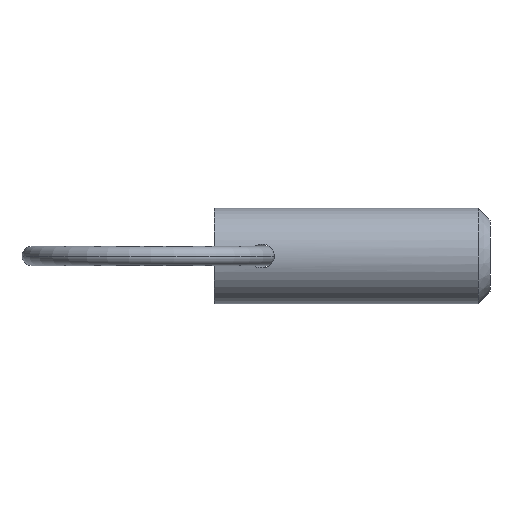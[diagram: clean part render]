
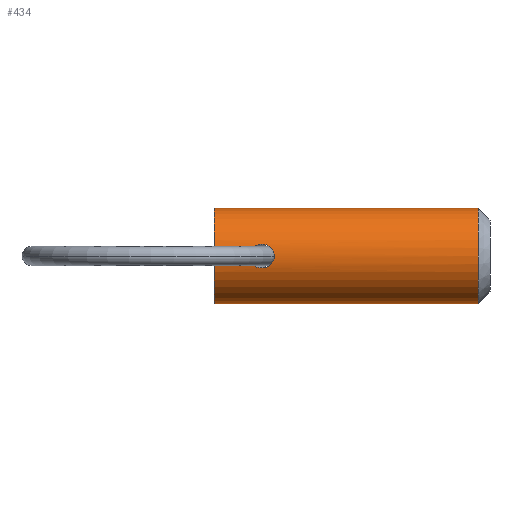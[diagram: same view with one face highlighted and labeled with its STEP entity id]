
A CAD part, front view. The second image highlights one B-rep face of the part: STEP entity #434.
In plain terms, the highlighted cylindrical face has radius 6.35 mm (diameter 12.7 mm), a partial arc.
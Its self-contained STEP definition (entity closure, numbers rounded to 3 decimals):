
#16 = CARTESIAN_POINT ( 'NONE',  ( 7.833, -6.328, -0.536 ) ) ;
#19 = EDGE_LOOP ( 'NONE', ( #522, #791, #181, #562 ) ) ;
#20 = CARTESIAN_POINT ( 'NONE',  ( 34.913, 0., 6.35 ) ) ;
#27 = VECTOR ( 'NONE', #546, 1000. ) ;
#31 = VERTEX_POINT ( 'NONE', #828 ) ;
#37 = CARTESIAN_POINT ( 'NONE',  ( 5.104, -6.237, -1.196 ) ) ;
#47 = CARTESIAN_POINT ( 'NONE',  ( 6.963, -6.18, -1.459 ) ) ;
#76 = B_SPLINE_CURVE_WITH_KNOTS ( 'NONE', 3,
 ( #658, #868, #347, #342, #273, #205, #539, #330, #601, #191, #471, #77, #287, #864, #480, #725, #394, #309, #767, #641, #706, #138, #419, #431 ),
 .UNSPECIFIED., .F., .F.,
 ( 4, 2, 2, 2, 2, 2, 2, 2, 2, 2, 2, 4 ),
 ( 0.001, 0.002, 0.002, 0.003, 0.003, 0.004, 0.004, 0.004, 0.005, 0.005, 0.006, 0.006 ),
 .UNSPECIFIED. ) ;
#77 = CARTESIAN_POINT ( 'NONE',  ( 6.329, -6.148, 1.59 ) ) ;
#85 = CARTESIAN_POINT ( 'NONE',  ( 7.909, -6.347, -0.22 ) ) ;
#93 = CARTESIAN_POINT ( 'NONE',  ( 7.25, -6.215, -1.302 ) ) ;
#101 = CARTESIAN_POINT ( 'NONE',  ( 5.998, -6.153, -1.568 ) ) ;
#107 = CARTESIAN_POINT ( 'NONE',  ( 5.192, -6.225, -1.257 ) ) ;
#108 = CARTESIAN_POINT ( 'NONE',  ( 4.52, -6.336, -0.428 ) ) ;
#115 = AXIS2_PLACEMENT_3D ( 'NONE', #325, #742, #183 ) ;
#138 = CARTESIAN_POINT ( 'NONE',  ( 7.875, -6.338, 0.437 ) ) ;
#151 = CARTESIAN_POINT ( 'NONE',  ( 7.568, -6.27, -1.008 ) ) ;
#154 = CARTESIAN_POINT ( 'NONE',  ( 7.92, -6.35, -0.109 ) ) ;
#155 = CARTESIAN_POINT ( 'NONE',  ( 34.913, 0., 0. ) ) ;
#156 = LINE ( 'NONE', #432, #241 ) ;
#158 = CARTESIAN_POINT ( 'NONE',  ( 7.693, -6.296, -0.832 ) ) ;
#174 = CARTESIAN_POINT ( 'NONE',  ( 5.477, -6.191, -1.414 ) ) ;
#175 = CARTESIAN_POINT ( 'NONE',  ( 4.662, -6.309, -0.723 ) ) ;
#177 = VERTEX_POINT ( 'NONE', #785 ) ;
#181 = ORIENTED_EDGE ( 'NONE', *, *, #274, .T. ) ;
#183 = DIRECTION ( 'NONE',  ( 0., 0., -1. ) ) ;
#187 = CIRCLE ( 'NONE', #812, 6.35 ) ;
#190 = FACE_BOUND ( 'NONE', #392, .T. ) ;
#191 = CARTESIAN_POINT ( 'NONE',  ( 6.002, -6.153, 1.569 ) ) ;
#197 = CARTESIAN_POINT ( 'NONE',  ( 6.107, -6.15, -1.582 ) ) ;
#205 = CARTESIAN_POINT ( 'NONE',  ( 5.191, -6.224, 1.268 ) ) ;
#225 = CARTESIAN_POINT ( 'NONE',  ( 4.452, -6.35, 0. ) ) ;
#240 = CARTESIAN_POINT ( 'NONE',  ( 5.68, -6.172, -1.492 ) ) ;
#241 = VECTOR ( 'NONE', #368, 1000. ) ;
#252 = CARTESIAN_POINT ( 'NONE',  ( 6.434, -6.147, -1.595 ) ) ;
#272 = CARTESIAN_POINT ( 'NONE',  ( 0., 0., -6.35 ) ) ;
#273 = CARTESIAN_POINT ( 'NONE',  ( 4.856, -6.274, 0.989 ) ) ;
#274 = EDGE_CURVE ( 'NONE', #499, #451, #156, .T. ) ;
#278 = VERTEX_POINT ( 'NONE', #20 ) ;
#287 = CARTESIAN_POINT ( 'NONE',  ( 6.437, -6.149, 1.585 ) ) ;
#295 = CARTESIAN_POINT ( 'NONE',  ( 7.496, -6.256, -1.091 ) ) ;
#309 = CARTESIAN_POINT ( 'NONE',  ( 7.249, -6.215, 1.303 ) ) ;
#325 = CARTESIAN_POINT ( 'NONE',  ( 0., 0., 0. ) ) ;
#330 = CARTESIAN_POINT ( 'NONE',  ( 5.685, -6.172, 1.494 ) ) ;
#342 = CARTESIAN_POINT ( 'NONE',  ( 4.713, -6.3, 0.82 ) ) ;
#344 = CARTESIAN_POINT ( 'NONE',  ( 0., 0., 6.35 ) ) ;
#347 = CARTESIAN_POINT ( 'NONE',  ( 4.51, -6.338, 0.435 ) ) ;
#366 = CARTESIAN_POINT ( 'NONE',  ( 7.865, -6.336, -0.432 ) ) ;
#368 = DIRECTION ( 'NONE',  ( 1., 0., 0. ) ) ;
#376 = VERTEX_POINT ( 'NONE', #669 ) ;
#379 = CARTESIAN_POINT ( 'NONE',  ( 4.86, -6.274, -0.98 ) ) ;
#390 = CARTESIAN_POINT ( 'NONE',  ( 4.466, -6.347, -0.219 ) ) ;
#392 = EDGE_LOOP ( 'NONE', ( #561, #424 ) ) ;
#394 = CARTESIAN_POINT ( 'NONE',  ( 7.063, -6.191, 1.413 ) ) ;
#402 = CYLINDRICAL_SURFACE ( 'NONE', #443, 6.35 ) ;
#419 = CARTESIAN_POINT ( 'NONE',  ( 7.92, -6.35, 0.218 ) ) ;
#424 = ORIENTED_EDGE ( 'NONE', *, *, #691, .T. ) ;
#431 = CARTESIAN_POINT ( 'NONE',  ( 7.92, -6.35, 0. ) ) ;
#432 = CARTESIAN_POINT ( 'NONE',  ( 0., 0., -6.35 ) ) ;
#434 = ADVANCED_FACE ( 'NONE', ( #881, #190 ), #402, .T. ) ;
#440 = CARTESIAN_POINT ( 'NONE',  ( 4.938, -6.262, -1.058 ) ) ;
#443 = AXIS2_PLACEMENT_3D ( 'NONE', #675, #476, #752 ) ;
#444 = CARTESIAN_POINT ( 'NONE',  ( 4.452, -6.35, -0.109 ) ) ;
#448 = B_SPLINE_CURVE_WITH_KNOTS ( 'NONE', 3,
 ( #572, #154, #85, #366, #16, #782, #158, #151, #295, #829, #93, #796, #47, #520, #252, #197, #101, #583, #240, #174, #456, #107, #37, #440, #379, #587, #175, #733, #108, #390, #444, #225 ),
 .UNSPECIFIED., .F., .F.,
 ( 4, 2, 2, 2, 2, 2, 2, 2, 2, 2, 2, 2, 2, 2, 2, 4 ),
 ( 0.006, 0.007, 0.007, 0.007, 0.008, 0.008, 0.008, 0.009, 0.009, 0.01, 0.01, 0.01, 0.011, 0.011, 0.011, 0.012 ),
 .UNSPECIFIED. ) ;
#451 = VERTEX_POINT ( 'NONE', #825 ) ;
#456 = CARTESIAN_POINT ( 'NONE',  ( 5.378, -6.201, -1.366 ) ) ;
#471 = CARTESIAN_POINT ( 'NONE',  ( 6.111, -6.15, 1.582 ) ) ;
#476 = DIRECTION ( 'NONE',  ( 1., 0., 0. ) ) ;
#480 = CARTESIAN_POINT ( 'NONE',  ( 6.759, -6.163, 1.529 ) ) ;
#499 = VERTEX_POINT ( 'NONE', #272 ) ;
#520 = CARTESIAN_POINT ( 'NONE',  ( 6.655, -6.155, -1.565 ) ) ;
#522 = ORIENTED_EDGE ( 'NONE', *, *, #596, .F. ) ;
#523 = CIRCLE ( 'NONE', #115, 6.35 ) ;
#539 = CARTESIAN_POINT ( 'NONE',  ( 5.381, -6.199, 1.378 ) ) ;
#546 = DIRECTION ( 'NONE',  ( 1., 0., 0. ) ) ;
#557 = DIRECTION ( 'NONE',  ( 1., 0., 0. ) ) ;
#561 = ORIENTED_EDGE ( 'NONE', *, *, #724, .T. ) ;
#562 = ORIENTED_EDGE ( 'NONE', *, *, #850, .F. ) ;
#572 = CARTESIAN_POINT ( 'NONE',  ( 7.92, -6.35, 0. ) ) ;
#583 = CARTESIAN_POINT ( 'NONE',  ( 5.784, -6.165, -1.523 ) ) ;
#587 = CARTESIAN_POINT ( 'NONE',  ( 4.722, -6.298, -0.813 ) ) ;
#596 = EDGE_CURVE ( 'NONE', #376, #278, #685, .T. ) ;
#601 = CARTESIAN_POINT ( 'NONE',  ( 5.789, -6.164, 1.525 ) ) ;
#641 = CARTESIAN_POINT ( 'NONE',  ( 7.576, -6.27, 1.017 ) ) ;
#658 = CARTESIAN_POINT ( 'NONE',  ( 4.452, -6.35, 0. ) ) ;
#663 = EDGE_CURVE ( 'NONE', #376, #499, #523, .T. ) ;
#669 = CARTESIAN_POINT ( 'NONE',  ( 0., 0., 6.35 ) ) ;
#675 = CARTESIAN_POINT ( 'NONE',  ( 0., 0., 0. ) ) ;
#685 = LINE ( 'NONE', #344, #27 ) ;
#691 = EDGE_CURVE ( 'NONE', #31, #177, #448, .T. ) ;
#706 = CARTESIAN_POINT ( 'NONE',  ( 7.704, -6.298, 0.835 ) ) ;
#724 = EDGE_CURVE ( 'NONE', #177, #31, #76, .T. ) ;
#725 = CARTESIAN_POINT ( 'NONE',  ( 6.965, -6.181, 1.458 ) ) ;
#733 = CARTESIAN_POINT ( 'NONE',  ( 4.56, -6.329, -0.53 ) ) ;
#742 = DIRECTION ( 'NONE',  ( 1., 0., 0. ) ) ;
#752 = DIRECTION ( 'NONE',  ( 0., 0., -1. ) ) ;
#767 = CARTESIAN_POINT ( 'NONE',  ( 7.338, -6.229, 1.237 ) ) ;
#782 = CARTESIAN_POINT ( 'NONE',  ( 7.746, -6.308, -0.737 ) ) ;
#785 = CARTESIAN_POINT ( 'NONE',  ( 4.452, -6.35, 0. ) ) ;
#791 = ORIENTED_EDGE ( 'NONE', *, *, #663, .T. ) ;
#796 = CARTESIAN_POINT ( 'NONE',  ( 7.063, -6.191, -1.413 ) ) ;
#812 = AXIS2_PLACEMENT_3D ( 'NONE', #155, #557, #836 ) ;
#825 = CARTESIAN_POINT ( 'NONE',  ( 34.913, 0., -6.35 ) ) ;
#828 = CARTESIAN_POINT ( 'NONE',  ( 7.92, -6.35, 0. ) ) ;
#829 = CARTESIAN_POINT ( 'NONE',  ( 7.336, -6.229, -1.238 ) ) ;
#836 = DIRECTION ( 'NONE',  ( 0., 0., -1. ) ) ;
#850 = EDGE_CURVE ( 'NONE', #278, #451, #187, .T. ) ;
#864 = CARTESIAN_POINT ( 'NONE',  ( 6.652, -6.157, 1.554 ) ) ;
#868 = CARTESIAN_POINT ( 'NONE',  ( 4.452, -6.35, 0.219 ) ) ;
#881 = FACE_OUTER_BOUND ( 'NONE', #19, .T. ) ;
